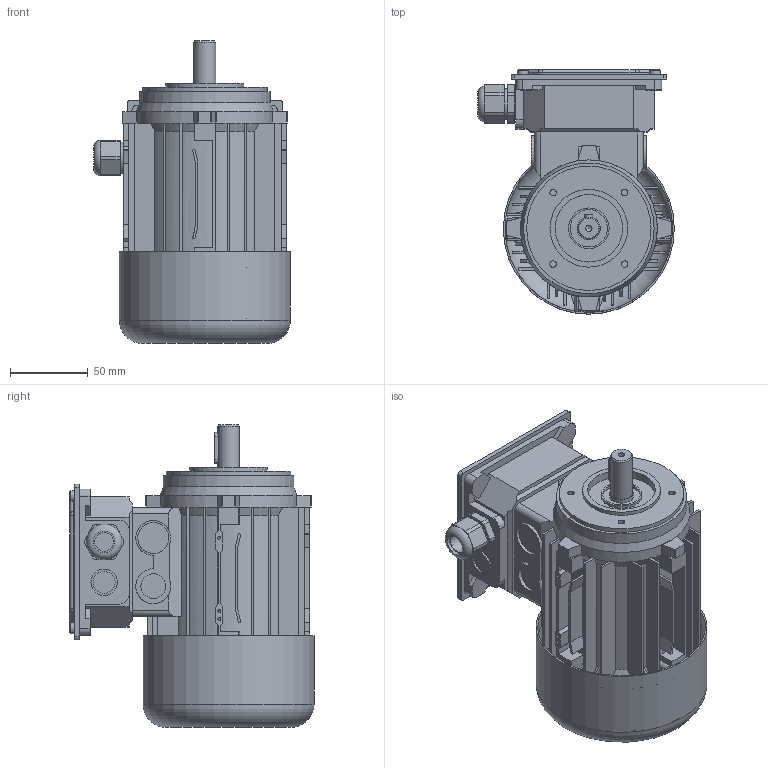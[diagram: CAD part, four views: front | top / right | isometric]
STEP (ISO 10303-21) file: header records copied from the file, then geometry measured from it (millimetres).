
FILE_DESCRIPTION(/* description */ (''),/* implementation_level */ '2;1');
FILE_NAME(/* name */ 'C:\Users\Public\Documents\Autodesk\Inventor LT 2014\Workspace\Componenti_ecoPM\1 - ECO5_56 (TG3)\ECO5_56x_xxA4_xx.stp',/* time_stamp */ '2021-07-28T15:37:17+02:00',/* author */ ('marcor'),/* organization */ (''),/* preprocessor_version */ 'ST-DEVELOPER v15.2',/* originating_system */ 'Autodesk Inventor LT ',/* authorisation */ '');
FILE_SCHEMA (('AUTOMOTIVE_DESIGN { 1 0 10303 214 3 1 1 }'));
Length unit declared in the file: millimetre
Products named in the file (1): ECO5_56x_xxA4_xx_FULL
Bounding box: 126.5 x 157 x 194.75 mm (x, y, z)
Volume: 1253119.6 mm3; surface area: 196499.9 mm2
Topology: 1 solids, 9 shells, 645 faces, 1747 edges, 1143 vertices
Faces by surface type: plane 416, cylinder 159, cone 58, bspline 8, torus 4
Full cylindrical faces by diameter (mm): 2 x3, 3.2 x8, 4.134 x5, 7 x8, 12 x1, 13.95 x2, 14 x2, 14.98 x1, 16 x2, 17 x2, 18 x1, 20 x4, 24 x1, 26.2 x1, 26.3 x1, 43.4 x1, 50 x1, 75 x1, 78 x1, 80 x1, 84 x2, 84.8 x1, 88 x1, 107.9 x1, 108.6 x1, 110 x1
Entity records: 19814 total; most frequent: CARTESIAN_POINT 4020, ORIENTED_EDGE 3260, DIRECTION 3246, EDGE_CURVE 1630, VERTEX_POINT 1108, AXIS2_PLACEMENT_3D 1094, LINE 1058, VECTOR 1058
